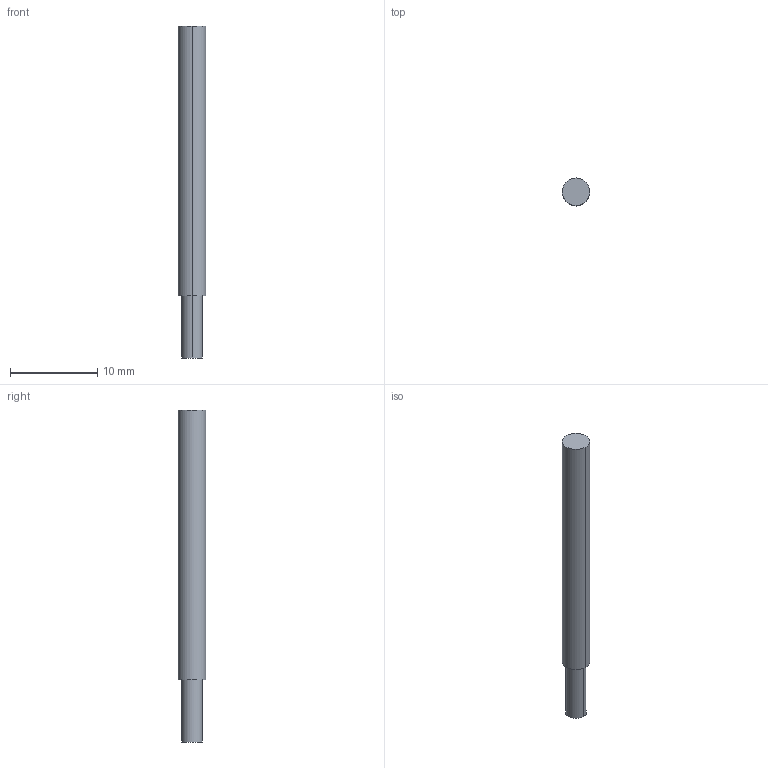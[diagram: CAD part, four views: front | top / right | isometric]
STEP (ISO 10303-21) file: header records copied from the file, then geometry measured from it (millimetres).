
FILE_DESCRIPTION((' '),'2;1');
FILE_NAME( '3MVR0938AH.stp', '2026-01-21T19:05:27', (' '), ('--- Datakit www.datakit.com---'), ' Datakit CrossCadWare V2025.4 Sep 19 2025', 'Mastercam 2027', ' ');
FILE_SCHEMA(('AUTOMOTIVE_DESIGN { 1 0 10303 214 1 1 1 1 }'));
Length unit declared in the file: inch
Products named in the file (1): 3MVR0938AH
Bounding box: 3.17 x 3.17 x 38.1 mm (x, y, z)
Volume: 277 mm3; surface area: 378.1 mm2
Topology: 1 solids, 1 shells, 7 faces, 12 edges, 8 vertices
Faces by surface type: cylinder 4, plane 3
Entity records: 243 total; most frequent: DIRECTION 44, CARTESIAN_POINT 32, ORIENTED_EDGE 24, AXIS2_PLACEMENT_3D 20, EDGE_CURVE 12, VERTEX_POINT 8, CIRCLE 8, EDGE_LOOP 8
